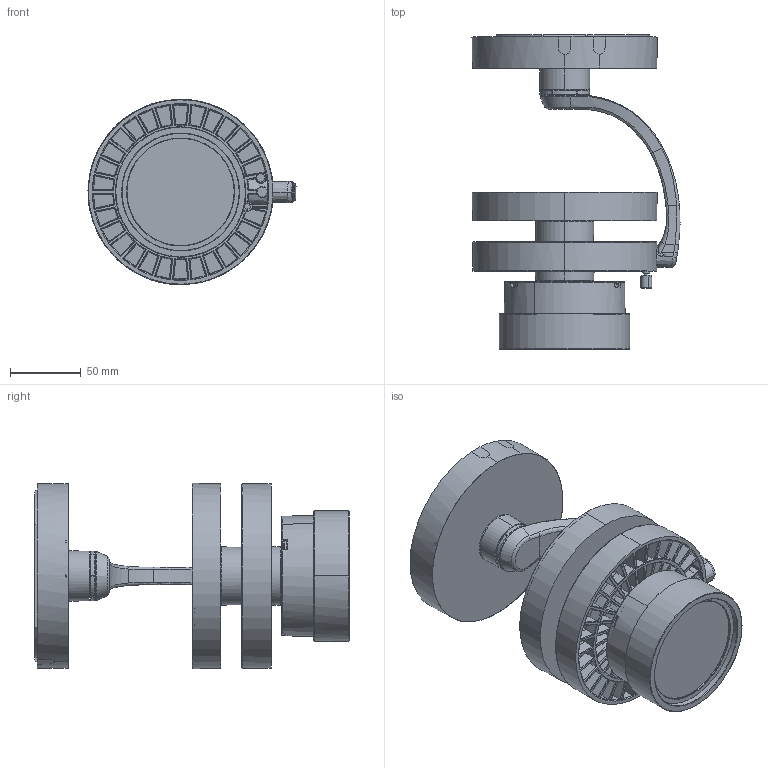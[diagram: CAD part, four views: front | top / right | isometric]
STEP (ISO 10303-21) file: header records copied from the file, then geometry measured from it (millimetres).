
FILE_DESCRIPTION(/* description */ (''),/* implementation_level */ '2;1');
FILE_NAME(/* name */ 'M057A81 - CATA CEILING - 1 GLASS FILTER',/* time_stamp */ '2018-03-02T16:19:19+01:00',/* author */ (''),/* organization */ (''),/* preprocessor_version */ 'ST-DEVELOPER v15',/* originating_system */ '',/* authorisation */ '');
FILE_SCHEMA (('CONFIG_CONTROL_DESIGN'));
Products named in the file (2): Document; Blocco 01 01
Assembly tree (1 placements, depth 2):
  Document
    Blocco 01 01
Bounding box: 146.68 x 221.56 x 130.7 mm (x, y, z)
Volume: 45667.9 mm3; surface area: 285075.6 mm2
Topology: 9 solids, 625 shells, 2433 faces, 7610 edges, 5625 vertices
Faces by surface type: bspline 1911, plane 522
Entity records: 145769 total; most frequent: CARTESIAN_POINT 106391, ORIENTED_EDGE 11749, EDGE_CURVE 7533, VERTEX_POINT 5651, B_SPLINE_CURVE_WITH_KNOTS 3843, EDGE_LOOP 2582, ADVANCED_FACE 2415, FACE_OUTER_BOUND 2415
